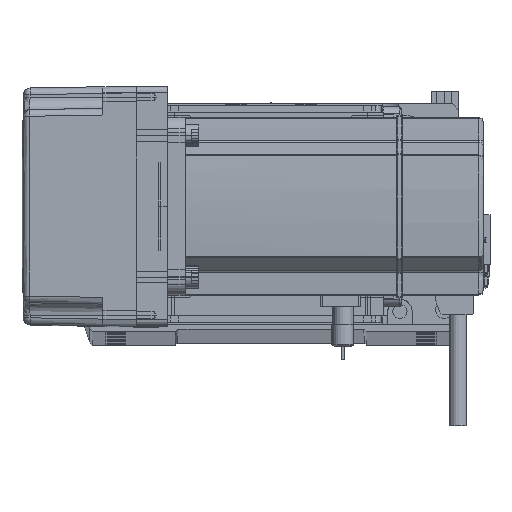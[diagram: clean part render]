
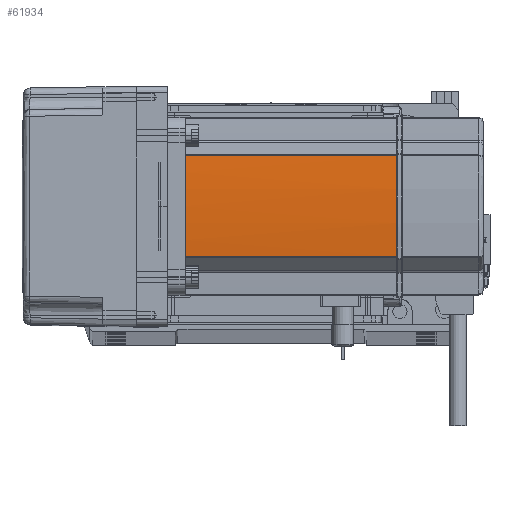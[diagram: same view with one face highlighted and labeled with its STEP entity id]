
A CAD part, top view. The second image highlights one B-rep face of the part: STEP entity #61934.
In plain terms, the highlighted cylindrical face has radius 270 mm (diameter 540 mm), a partial arc.
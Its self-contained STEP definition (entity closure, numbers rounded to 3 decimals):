
#147 = ORIENTED_EDGE ( 'NONE', *, *, #66642, .F. ) ;
#377 = CIRCLE ( 'NONE', #27145, 270. ) ;
#1424 = CARTESIAN_POINT ( 'NONE',  ( 40., -0.042, 134. ) ) ;
#1942 = LINE ( 'NONE', #56989, #50584 ) ;
#3970 = CARTESIAN_POINT ( 'NONE',  ( 39.042, -22.724, 39. ) ) ;
#5276 = VERTEX_POINT ( 'NONE', #41606 ) ;
#6435 = CARTESIAN_POINT ( 'NONE',  ( 40., -0.127, 134. ) ) ;
#7524 = AXIS2_PLACEMENT_3D ( 'NONE', #32932, #64290, #53938 ) ;
#8377 = B_SPLINE_CURVE_WITH_KNOTS ( 'NONE', 3,
 ( #6435, #1424, #54855, #39337 ),
 .UNSPECIFIED., .F., .F.,
 ( 4, 4 ),
 ( 0., 1. ),
 .UNSPECIFIED. ) ;
#9672 = ORIENTED_EDGE ( 'NONE', *, *, #9951, .T. ) ;
#9951 = EDGE_CURVE ( 'NONE', #50085, #33923, #65756, .T. ) ;
#10089 = ORIENTED_EDGE ( 'NONE', *, *, #39799, .T. ) ;
#10217 = AXIS2_PLACEMENT_3D ( 'NONE', #15052, #41033, #57243 ) ;
#13715 = VERTEX_POINT ( 'NONE', #27767 ) ;
#14241 = VERTEX_POINT ( 'NONE', #3970 ) ;
#15052 = CARTESIAN_POINT ( 'NONE',  ( -230., 0., 39. ) ) ;
#15245 = DIRECTION ( 'NONE',  ( 0., 0., 1. ) ) ;
#18980 = CIRCLE ( 'NONE', #10217, 270. ) ;
#22692 = DIRECTION ( 'NONE',  ( 0., 0., -1. ) ) ;
#23141 = CARTESIAN_POINT ( 'NONE',  ( -230., 0., 134. ) ) ;
#27145 = AXIS2_PLACEMENT_3D ( 'NONE', #23141, #22692, #39001 ) ;
#27767 = CARTESIAN_POINT ( 'NONE',  ( 39.042, 22.724, 39. ) ) ;
#29392 = ORIENTED_EDGE ( 'NONE', *, *, #65736, .F. ) ;
#30960 = ORIENTED_EDGE ( 'NONE', *, *, #38675, .T. ) ;
#32690 = CARTESIAN_POINT ( 'NONE',  ( 39.042, 22.724, 134. ) ) ;
#32932 = CARTESIAN_POINT ( 'NONE',  ( -230., 0., 134. ) ) ;
#33923 = VERTEX_POINT ( 'NONE', #40325 ) ;
#38675 = EDGE_CURVE ( 'NONE', #40918, #5276, #377, .T. ) ;
#39001 = DIRECTION ( 'NONE',  ( -1., 0., 0. ) ) ;
#39228 = CYLINDRICAL_SURFACE ( 'NONE', #51544, 270. ) ;
#39337 = CARTESIAN_POINT ( 'NONE',  ( 40., 0.127, 134. ) ) ;
#39799 = EDGE_CURVE ( 'NONE', #5276, #14241, #56286, .T. ) ;
#40325 = CARTESIAN_POINT ( 'NONE',  ( 40., 0.127, 134. ) ) ;
#40918 = VERTEX_POINT ( 'NONE', #60519 ) ;
#41033 = DIRECTION ( 'NONE',  ( 0., 0., -1. ) ) ;
#41443 = CARTESIAN_POINT ( 'NONE',  ( -230., 0., 58. ) ) ;
#41606 = CARTESIAN_POINT ( 'NONE',  ( 39.042, -22.724, 134. ) ) ;
#42177 = VECTOR ( 'NONE', #51284, 1000. ) ;
#42682 = EDGE_CURVE ( 'NONE', #13715, #50085, #1942, .T. ) ;
#43331 = FACE_OUTER_BOUND ( 'NONE', #49043, .T. ) ;
#49043 = EDGE_LOOP ( 'NONE', ( #10089, #147, #53487, #9672, #29392, #30960 ) ) ;
#50085 = VERTEX_POINT ( 'NONE', #32690 ) ;
#50584 = VECTOR ( 'NONE', #15245, 1000. ) ;
#51284 = DIRECTION ( 'NONE',  ( 0., 0., -1. ) ) ;
#51544 = AXIS2_PLACEMENT_3D ( 'NONE', #41443, #52131, #62263 ) ;
#52131 = DIRECTION ( 'NONE',  ( 0., 0., -1. ) ) ;
#53487 = ORIENTED_EDGE ( 'NONE', *, *, #42682, .T. ) ;
#53938 = DIRECTION ( 'NONE',  ( -1., 0., 0. ) ) ;
#54855 = CARTESIAN_POINT ( 'NONE',  ( 40., 0.042, 134. ) ) ;
#56286 = LINE ( 'NONE', #56822, #42177 ) ;
#56822 = CARTESIAN_POINT ( 'NONE',  ( 39.042, -22.724, 58. ) ) ;
#56989 = CARTESIAN_POINT ( 'NONE',  ( 39.042, 22.724, 58. ) ) ;
#57243 = DIRECTION ( 'NONE',  ( -1., 0., 0. ) ) ;
#60519 = CARTESIAN_POINT ( 'NONE',  ( 40., -0.127, 134. ) ) ;
#61934 = ADVANCED_FACE ( 'NONE', ( #43331 ), #39228, .T. ) ;
#62263 = DIRECTION ( 'NONE',  ( -1., 0., 0. ) ) ;
#64290 = DIRECTION ( 'NONE',  ( 0., 0., -1. ) ) ;
#65736 = EDGE_CURVE ( 'NONE', #40918, #33923, #8377, .T. ) ;
#65756 = CIRCLE ( 'NONE', #7524, 270. ) ;
#66642 = EDGE_CURVE ( 'NONE', #13715, #14241, #18980, .T. ) ;
